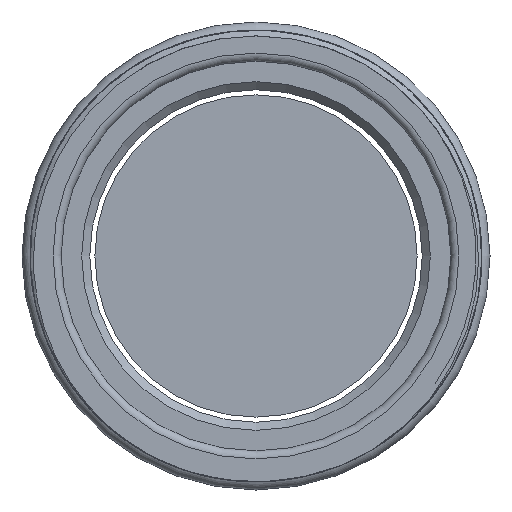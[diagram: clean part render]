
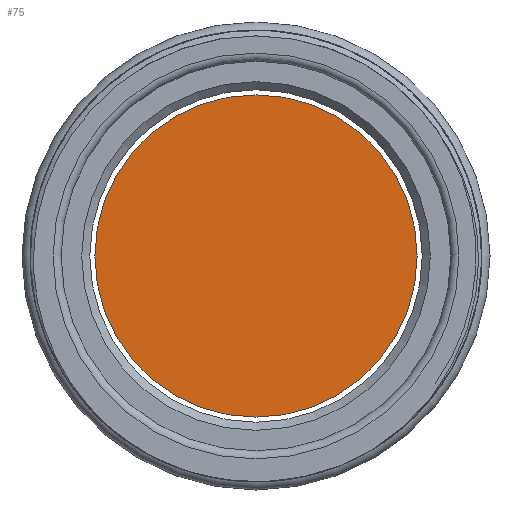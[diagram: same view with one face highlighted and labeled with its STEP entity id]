
A CAD part, front view. The second image highlights one B-rep face of the part: STEP entity #75.
In plain terms, the highlighted planar face has unit normal (0, -1, 0).
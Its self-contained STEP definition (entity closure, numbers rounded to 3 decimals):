
#60=PLANE('',#326);
#68=FACE_OUTER_BOUND('',#144,.T.);
#75=ADVANCED_FACE('',(#68),#60,.T.);
#144=EDGE_LOOP('',(#186));
#186=ORIENTED_EDGE('',*,*,#270,.T.);
#244=VERTEX_POINT('',#459);
#270=EDGE_CURVE('',#244,#244,#300,.T.);
#300=CIRCLE('',#323,19.975);
#323=AXIS2_PLACEMENT_3D('',#458,#369,#370);
#326=AXIS2_PLACEMENT_3D('',#463,#375,#376);
#369=DIRECTION('',(0.,-1.,0.));
#370=DIRECTION('',(1.,0.,0.));
#375=DIRECTION('',(0.,-1.,0.));
#376=DIRECTION('',(0.,0.,-1.));
#458=CARTESIAN_POINT('',(0.,-10.,0.));
#459=CARTESIAN_POINT('',(19.975,-10.,0.));
#463=CARTESIAN_POINT('',(0.,-10.,0.));
